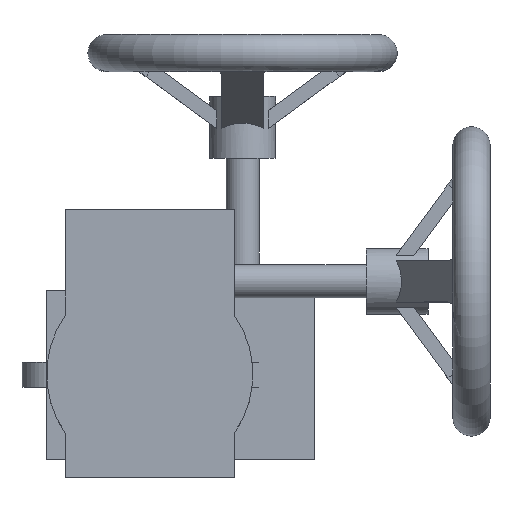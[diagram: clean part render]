
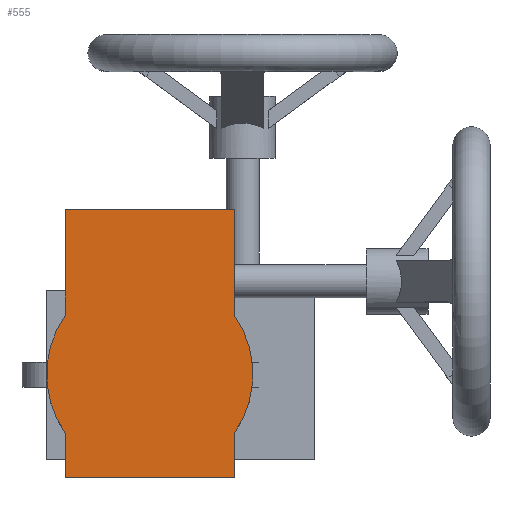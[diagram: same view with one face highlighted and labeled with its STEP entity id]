
A CAD part, top view. The second image highlights one B-rep face of the part: STEP entity #555.
In plain terms, the highlighted planar face has unit normal (0, 0, 1) as drawn and (0, 0, -1) by its records, which use the part's own axes.
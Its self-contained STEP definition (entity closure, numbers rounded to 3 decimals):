
#555 = ADVANCED_FACE( '', ( #1225 ), #1226, .F. );
#1225 = FACE_OUTER_BOUND( '', #2536, .T. );
#1226 = PLANE( '', #2537 );
#2536 = EDGE_LOOP( '', ( #5159, #5160, #5161, #5162, #5163, #5164, #5165, #5166 ) );
#2537 = AXIS2_PLACEMENT_3D( '', #5167, #5168, #5169 );
#5159 = ORIENTED_EDGE( '', *, *, #6255, .F. );
#5160 = ORIENTED_EDGE( '', *, *, #6685, .F. );
#5161 = ORIENTED_EDGE( '', *, *, #6812, .F. );
#5162 = ORIENTED_EDGE( '', *, *, #6717, .F. );
#5163 = ORIENTED_EDGE( '', *, *, #6416, .F. );
#5164 = ORIENTED_EDGE( '', *, *, #6852, .F. );
#5165 = ORIENTED_EDGE( '', *, *, #6853, .F. );
#5166 = ORIENTED_EDGE( '', *, *, #6333, .F. );
#5167 = CARTESIAN_POINT( '', ( 0., 0., 0. ) );
#5168 = DIRECTION( '', ( 0., 0., 1. ) );
#5169 = DIRECTION( '', ( 1., 0., 0. ) );
#6255 = EDGE_CURVE( '', #7124, #7126, #7127, .T. );
#6333 = EDGE_CURVE( '', #7126, #7265, #7266, .T. );
#6416 = EDGE_CURVE( '', #7404, #7406, #7407, .T. );
#6685 = EDGE_CURVE( '', #7839, #7124, #7841, .T. );
#6717 = EDGE_CURVE( '', #7406, #7887, #7888, .T. );
#6812 = EDGE_CURVE( '', #7887, #7839, #8017, .T. );
#6852 = EDGE_CURVE( '', #8063, #7404, #8064, .T. );
#6853 = EDGE_CURVE( '', #7265, #8063, #8065, .T. );
#7124 = VERTEX_POINT( '', #8400 );
#7126 = VERTEX_POINT( '', #8403 );
#7127 = CIRCLE( '', #8404, 50. );
#7265 = VERTEX_POINT( '', #8885 );
#7266 = LINE( '', #8886, #8887 );
#7404 = VERTEX_POINT( '', #9662 );
#7406 = VERTEX_POINT( '', #9665 );
#7407 = CIRCLE( '', #9666, 50. );
#7839 = VERTEX_POINT( '', #11224 );
#7841 = LINE( '', #11227, #11228 );
#7887 = VERTEX_POINT( '', #11664 );
#7888 = LINE( '', #11665, #11666 );
#8017 = LINE( '', #12415, #12416 );
#8063 = VERTEX_POINT( '', #12887 );
#8064 = LINE( '', #12888, #12889 );
#8065 = LINE( '', #12890, #12891 );
#8400 = CARTESIAN_POINT( '', ( -28.618, -41., 0. ) );
#8403 = CARTESIAN_POINT( '', ( 28.618, -41., 0. ) );
#8404 = AXIS2_PLACEMENT_3D( '', #14806, #14807, #14808 );
#8885 = CARTESIAN_POINT( '', ( 80., -41., 0. ) );
#8886 = CARTESIAN_POINT( '', ( 28.618, -41., 0. ) );
#8887 = VECTOR( '', #14885, 1000. );
#9662 = CARTESIAN_POINT( '', ( 28.618, 41., 0. ) );
#9665 = CARTESIAN_POINT( '', ( -28.618, 41., 0. ) );
#9666 = AXIS2_PLACEMENT_3D( '', #14957, #14958, #14959 );
#11224 = CARTESIAN_POINT( '', ( -50., -41., 0. ) );
#11227 = CARTESIAN_POINT( '', ( -50., -41., 0. ) );
#11228 = VECTOR( '', #15231, 1000. );
#11664 = CARTESIAN_POINT( '', ( -50., 41., 0. ) );
#11665 = CARTESIAN_POINT( '', ( -28.618, 41., 0. ) );
#11666 = VECTOR( '', #15248, 1000. );
#12415 = CARTESIAN_POINT( '', ( -50., 41., 0. ) );
#12416 = VECTOR( '', #15322, 1000. );
#12887 = CARTESIAN_POINT( '', ( 80., 41., 0. ) );
#12888 = CARTESIAN_POINT( '', ( 80., 41., 0. ) );
#12889 = VECTOR( '', #15341, 1000. );
#12890 = CARTESIAN_POINT( '', ( 80., -41., 0. ) );
#12891 = VECTOR( '', #15342, 1000. );
#14806 = CARTESIAN_POINT( '', ( 0., 0., 0. ) );
#14807 = DIRECTION( '', ( 0., 0., 1. ) );
#14808 = DIRECTION( '', ( 1., 0., 0. ) );
#14885 = DIRECTION( '', ( 1., 0., 0. ) );
#14957 = CARTESIAN_POINT( '', ( 0., 0., 0. ) );
#14958 = DIRECTION( '', ( 0., 0., 1. ) );
#14959 = DIRECTION( '', ( 1., 0., 0. ) );
#15231 = DIRECTION( '', ( 1., 0., 0. ) );
#15248 = DIRECTION( '', ( -1., 0., 0. ) );
#15322 = DIRECTION( '', ( 0., -1., 0. ) );
#15341 = DIRECTION( '', ( -1., 0., 0. ) );
#15342 = DIRECTION( '', ( 0., 1., 0. ) );
